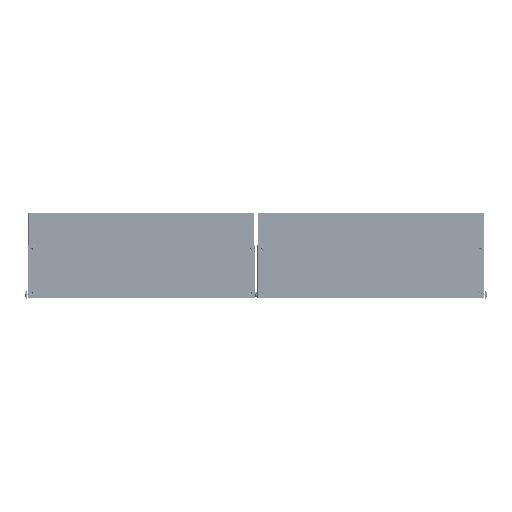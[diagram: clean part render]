
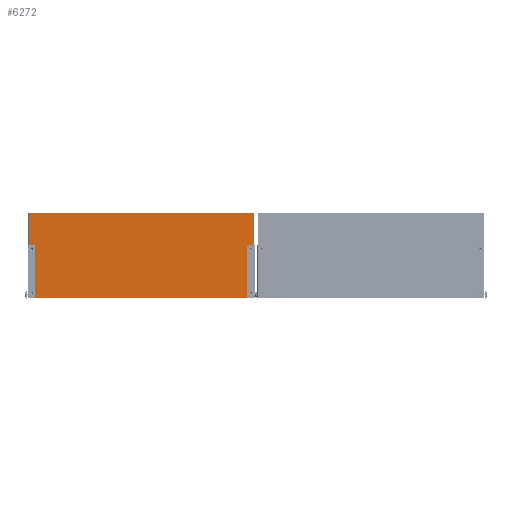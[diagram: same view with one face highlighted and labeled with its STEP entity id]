
A CAD part, front view. The second image highlights one B-rep face of the part: STEP entity #6272.
In plain terms, the highlighted planar face has unit normal (0, -1, 0).
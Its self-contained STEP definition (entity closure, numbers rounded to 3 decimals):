
#156 = CARTESIAN_POINT ( 'NONE',  ( 382.5, 0., 23.7 ) ) ;
#585 = ORIENTED_EDGE ( 'NONE', *, *, #24919, .T. ) ;
#651 = PLANE ( 'NONE',  #7593 ) ;
#1062 = LINE ( 'NONE', #1385, #5550 ) ;
#1385 = CARTESIAN_POINT ( 'NONE',  ( -393.5, 0., -149. ) ) ;
#1523 = EDGE_CURVE ( 'NONE', #19084, #21126, #3450, .T. ) ;
#1592 = CARTESIAN_POINT ( 'NONE',  ( -382.5, 0., -131.8 ) ) ;
#1944 = ORIENTED_EDGE ( 'NONE', *, *, #5566, .F. ) ;
#3242 = CARTESIAN_POINT ( 'NONE',  ( -382.5, 0., -129.3 ) ) ;
#3450 = CIRCLE ( 'NONE', #13943, 2.5 ) ;
#3625 = CIRCLE ( 'NONE', #32244, 2.5 ) ;
#3702 = VERTEX_POINT ( 'NONE', #29422 ) ;
#3755 = EDGE_CURVE ( 'NONE', #31379, #29100, #32343, .T. ) ;
#4137 = ORIENTED_EDGE ( 'NONE', *, *, #11519, .F. ) ;
#4332 = DIRECTION ( 'NONE',  ( 0., -1., 0. ) ) ;
#4661 = AXIS2_PLACEMENT_3D ( 'NONE', #11752, #29007, #31633 ) ;
#4708 = CARTESIAN_POINT ( 'NONE',  ( 382.5, 0., 18.7 ) ) ;
#5040 = CIRCLE ( 'NONE', #13428, 2.5 ) ;
#5064 = VECTOR ( 'NONE', #30869, 1000. ) ;
#5165 = CIRCLE ( 'NONE', #4661, 2.5 ) ;
#5545 = EDGE_LOOP ( 'NONE', ( #21912, #25386, #585, #18579 ) ) ;
#5550 = VECTOR ( 'NONE', #13691, 1000. ) ;
#5566 = EDGE_CURVE ( 'NONE', #26934, #6433, #27461, .T. ) ;
#5567 = FACE_OUTER_BOUND ( 'NONE', #5545, .T. ) ;
#6074 = DIRECTION ( 'NONE',  ( 0., -1., 0. ) ) ;
#6076 = CARTESIAN_POINT ( 'NONE',  ( -382.5, 0., 23.7 ) ) ;
#6243 = LINE ( 'NONE', #21012, #5064 ) ;
#6272 = ADVANCED_FACE ( 'NONE', ( #5567, #13280, #13128, #23127, #27547 ), #651, .T. ) ;
#6433 = VERTEX_POINT ( 'NONE', #4708 ) ;
#7593 = AXIS2_PLACEMENT_3D ( 'NONE', #10649, #20650, #8192 ) ;
#7819 = DIRECTION ( 'NONE',  ( 0., 1., 0. ) ) ;
#7987 = DIRECTION ( 'NONE',  ( 0., 1., 0. ) ) ;
#8192 = DIRECTION ( 'NONE',  ( 0., 0., -1. ) ) ;
#8607 = EDGE_LOOP ( 'NONE', ( #14319, #15045 ) ) ;
#9166 = CARTESIAN_POINT ( 'NONE',  ( 382.5, 0., 21.2 ) ) ;
#9617 = CARTESIAN_POINT ( 'NONE',  ( 393.5, 0., -148.5 ) ) ;
#9726 = LINE ( 'NONE', #17451, #20301 ) ;
#9831 = DIRECTION ( 'NONE',  ( 0., 0., -1. ) ) ;
#10115 = CARTESIAN_POINT ( 'NONE',  ( 393.5, 0., 148.5 ) ) ;
#10353 = EDGE_CURVE ( 'NONE', #30810, #18336, #14530, .T. ) ;
#10649 = CARTESIAN_POINT ( 'NONE',  ( 0., 0., 0. ) ) ;
#11428 = DIRECTION ( 'NONE',  ( 0., 0., -1. ) ) ;
#11519 = EDGE_CURVE ( 'NONE', #3702, #21464, #5165, .T. ) ;
#11752 = CARTESIAN_POINT ( 'NONE',  ( 382.5, 0., -131.8 ) ) ;
#12152 = DIRECTION ( 'NONE',  ( 0., 1., 0. ) ) ;
#12256 = EDGE_CURVE ( 'NONE', #21464, #3702, #26008, .T. ) ;
#12273 = ORIENTED_EDGE ( 'NONE', *, *, #24061, .F. ) ;
#13128 = FACE_BOUND ( 'NONE', #8607, .T. ) ;
#13280 = FACE_BOUND ( 'NONE', #30315, .T. ) ;
#13296 = CARTESIAN_POINT ( 'NONE',  ( 382.5, 0., -131.8 ) ) ;
#13428 = AXIS2_PLACEMENT_3D ( 'NONE', #9166, #21650, #24594 ) ;
#13691 = DIRECTION ( 'NONE',  ( 0., 0., -1. ) ) ;
#13943 = AXIS2_PLACEMENT_3D ( 'NONE', #27989, #7819, #25360 ) ;
#14319 = ORIENTED_EDGE ( 'NONE', *, *, #10353, .T. ) ;
#14530 = CIRCLE ( 'NONE', #30783, 2.5 ) ;
#14856 = EDGE_CURVE ( 'NONE', #21126, #19084, #3625, .T. ) ;
#15045 = ORIENTED_EDGE ( 'NONE', *, *, #15307, .T. ) ;
#15088 = VECTOR ( 'NONE', #31874, 1000. ) ;
#15155 = CARTESIAN_POINT ( 'NONE',  ( -382.5, 0., -134.3 ) ) ;
#15307 = EDGE_CURVE ( 'NONE', #18336, #30810, #27001, .T. ) ;
#15359 = VERTEX_POINT ( 'NONE', #10115 ) ;
#15535 = EDGE_LOOP ( 'NONE', ( #12273, #1944 ) ) ;
#16328 = DIRECTION ( 'NONE',  ( 0., 0., -1. ) ) ;
#16780 = EDGE_CURVE ( 'NONE', #15359, #26013, #6243, .T. ) ;
#16804 = CARTESIAN_POINT ( 'NONE',  ( 382.5, 0., -129.3 ) ) ;
#17451 = CARTESIAN_POINT ( 'NONE',  ( 393.5, 0., 150. ) ) ;
#18336 = VERTEX_POINT ( 'NONE', #3242 ) ;
#18579 = ORIENTED_EDGE ( 'NONE', *, *, #16780, .T. ) ;
#18630 = AXIS2_PLACEMENT_3D ( 'NONE', #30000, #7987, #24881 ) ;
#19084 = VERTEX_POINT ( 'NONE', #6076 ) ;
#19855 = CARTESIAN_POINT ( 'NONE',  ( 394., 0., -148.5 ) ) ;
#19945 = CARTESIAN_POINT ( 'NONE',  ( -393.5, 0., -148.5 ) ) ;
#20232 = ORIENTED_EDGE ( 'NONE', *, *, #1523, .T. ) ;
#20244 = CARTESIAN_POINT ( 'NONE',  ( -382.5, 0., 18.7 ) ) ;
#20301 = VECTOR ( 'NONE', #24822, 1000. ) ;
#20650 = DIRECTION ( 'NONE',  ( 0., -1., 0. ) ) ;
#21012 = CARTESIAN_POINT ( 'NONE',  ( -395., 0., 148.5 ) ) ;
#21126 = VERTEX_POINT ( 'NONE', #20244 ) ;
#21464 = VERTEX_POINT ( 'NONE', #16804 ) ;
#21650 = DIRECTION ( 'NONE',  ( 0., -1., 0. ) ) ;
#21912 = ORIENTED_EDGE ( 'NONE', *, *, #22420, .T. ) ;
#22420 = EDGE_CURVE ( 'NONE', #26013, #31379, #1062, .T. ) ;
#22796 = ORIENTED_EDGE ( 'NONE', *, *, #14856, .T. ) ;
#23127 = FACE_BOUND ( 'NONE', #15535, .T. ) ;
#23871 = DIRECTION ( 'NONE',  ( 0., 1., 0. ) ) ;
#24061 = EDGE_CURVE ( 'NONE', #6433, #26934, #5040, .T. ) ;
#24319 = AXIS2_PLACEMENT_3D ( 'NONE', #31601, #4332, #16328 ) ;
#24594 = DIRECTION ( 'NONE',  ( 0., 0., -1. ) ) ;
#24684 = CARTESIAN_POINT ( 'NONE',  ( -393.5, 0., 148.5 ) ) ;
#24765 = CARTESIAN_POINT ( 'NONE',  ( -382.5, 0., 21.2 ) ) ;
#24822 = DIRECTION ( 'NONE',  ( 0., 0., 1. ) ) ;
#24881 = DIRECTION ( 'NONE',  ( 0., 0., -1. ) ) ;
#24919 = EDGE_CURVE ( 'NONE', #29100, #15359, #9726, .T. ) ;
#25360 = DIRECTION ( 'NONE',  ( 0., 0., -1. ) ) ;
#25386 = ORIENTED_EDGE ( 'NONE', *, *, #3755, .T. ) ;
#25739 = ORIENTED_EDGE ( 'NONE', *, *, #12256, .F. ) ;
#26008 = CIRCLE ( 'NONE', #29688, 2.5 ) ;
#26013 = VERTEX_POINT ( 'NONE', #24684 ) ;
#26934 = VERTEX_POINT ( 'NONE', #156 ) ;
#27001 = CIRCLE ( 'NONE', #18630, 2.5 ) ;
#27461 = CIRCLE ( 'NONE', #24319, 2.5 ) ;
#27547 = FACE_BOUND ( 'NONE', #29381, .T. ) ;
#27989 = CARTESIAN_POINT ( 'NONE',  ( -382.5, 0., 21.2 ) ) ;
#28410 = DIRECTION ( 'NONE',  ( 0., 0., -1. ) ) ;
#29007 = DIRECTION ( 'NONE',  ( 0., -1., 0. ) ) ;
#29100 = VERTEX_POINT ( 'NONE', #9617 ) ;
#29381 = EDGE_LOOP ( 'NONE', ( #4137, #25739 ) ) ;
#29422 = CARTESIAN_POINT ( 'NONE',  ( 382.5, 0., -134.3 ) ) ;
#29688 = AXIS2_PLACEMENT_3D ( 'NONE', #13296, #6074, #28410 ) ;
#30000 = CARTESIAN_POINT ( 'NONE',  ( -382.5, 0., -131.8 ) ) ;
#30315 = EDGE_LOOP ( 'NONE', ( #22796, #20232 ) ) ;
#30783 = AXIS2_PLACEMENT_3D ( 'NONE', #1592, #23871, #11428 ) ;
#30810 = VERTEX_POINT ( 'NONE', #15155 ) ;
#30869 = DIRECTION ( 'NONE',  ( -1., 0., 0. ) ) ;
#31379 = VERTEX_POINT ( 'NONE', #19945 ) ;
#31601 = CARTESIAN_POINT ( 'NONE',  ( 382.5, 0., 21.2 ) ) ;
#31633 = DIRECTION ( 'NONE',  ( 0., 0., -1. ) ) ;
#31874 = DIRECTION ( 'NONE',  ( 1., 0., 0. ) ) ;
#32244 = AXIS2_PLACEMENT_3D ( 'NONE', #24765, #12152, #9831 ) ;
#32343 = LINE ( 'NONE', #19855, #15088 ) ;
